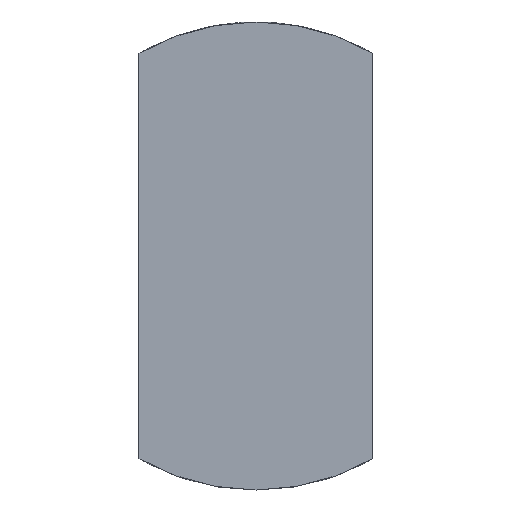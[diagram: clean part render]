
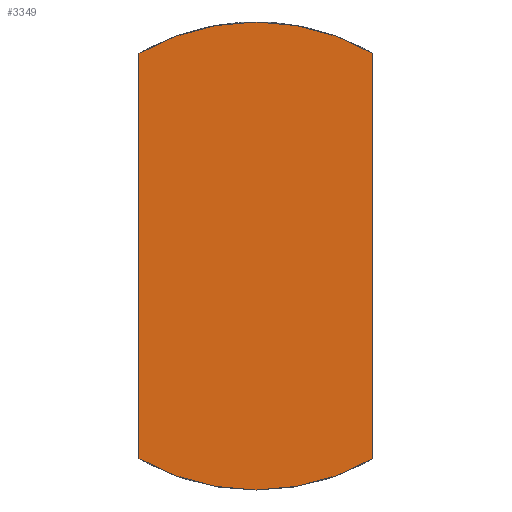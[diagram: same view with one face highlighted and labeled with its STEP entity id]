
A CAD part, front view. The second image highlights one B-rep face of the part: STEP entity #3349.
In plain terms, the highlighted planar face has unit normal (0, -1, 0).
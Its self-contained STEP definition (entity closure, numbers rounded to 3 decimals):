
#106 = DIRECTION ( 'NONE',  ( 0., 0., -1. ) ) ;
#123 = DIRECTION ( 'NONE',  ( 0., -1., 0. ) ) ;
#135 = CARTESIAN_POINT ( 'NONE',  ( 25., 0., -43.301 ) ) ;
#293 = EDGE_CURVE ( 'NONE', #3383, #3141, #2626, .T. ) ;
#320 = DIRECTION ( 'NONE',  ( 0., 0., 1. ) ) ;
#433 = ORIENTED_EDGE ( 'NONE', *, *, #293, .T. ) ;
#448 = FACE_OUTER_BOUND ( 'NONE', #587, .T. ) ;
#525 = DIRECTION ( 'NONE',  ( 0., -1., 0. ) ) ;
#587 = EDGE_LOOP ( 'NONE', ( #2159, #433, #3565, #1105, #1287 ) ) ;
#631 = CARTESIAN_POINT ( 'NONE',  ( -25., 0., 43.301 ) ) ;
#649 = DIRECTION ( 'NONE',  ( 0., -1., 0. ) ) ;
#685 = CARTESIAN_POINT ( 'NONE',  ( -25., 0., -43.301 ) ) ;
#713 = VECTOR ( 'NONE', #320, 1000. ) ;
#864 = CARTESIAN_POINT ( 'NONE',  ( 0., 0., -50. ) ) ;
#931 = CARTESIAN_POINT ( 'NONE',  ( 0., 0., 0. ) ) ;
#987 = DIRECTION ( 'NONE',  ( 0., 0., 1. ) ) ;
#1007 = CARTESIAN_POINT ( 'NONE',  ( 0., 0., 0. ) ) ;
#1012 = CARTESIAN_POINT ( 'NONE',  ( 25., 0., -50. ) ) ;
#1074 = VERTEX_POINT ( 'NONE', #1163 ) ;
#1105 = ORIENTED_EDGE ( 'NONE', *, *, #2216, .T. ) ;
#1163 = CARTESIAN_POINT ( 'NONE',  ( 25., 0., 43.301 ) ) ;
#1275 = VECTOR ( 'NONE', #987, 1000. ) ;
#1287 = ORIENTED_EDGE ( 'NONE', *, *, #1298, .T. ) ;
#1294 = LINE ( 'NONE', #1012, #1275 ) ;
#1298 = EDGE_CURVE ( 'NONE', #1074, #2935, #3676, .T. ) ;
#1303 = CARTESIAN_POINT ( 'NONE',  ( -25., 0., -50. ) ) ;
#1412 = AXIS2_PLACEMENT_3D ( 'NONE', #931, #2183, #2167 ) ;
#2159 = ORIENTED_EDGE ( 'NONE', *, *, #3173, .F. ) ;
#2167 = DIRECTION ( 'NONE',  ( 0., 0., -1. ) ) ;
#2181 = CARTESIAN_POINT ( 'NONE',  ( 0., 0., 0. ) ) ;
#2183 = DIRECTION ( 'NONE',  ( 0., -1., 0. ) ) ;
#2216 = EDGE_CURVE ( 'NONE', #3948, #1074, #1294, .T. ) ;
#2234 = LINE ( 'NONE', #1303, #713 ) ;
#2381 = CARTESIAN_POINT ( 'NONE',  ( 0., 0., 0. ) ) ;
#2626 = CIRCLE ( 'NONE', #3132, 50. ) ;
#2759 = EDGE_CURVE ( 'NONE', #3141, #3948, #3939, .T. ) ;
#2935 = VERTEX_POINT ( 'NONE', #631 ) ;
#3076 = AXIS2_PLACEMENT_3D ( 'NONE', #2181, #649, #3178 ) ;
#3132 = AXIS2_PLACEMENT_3D ( 'NONE', #2381, #525, #3966 ) ;
#3141 = VERTEX_POINT ( 'NONE', #864 ) ;
#3173 = EDGE_CURVE ( 'NONE', #3383, #2935, #2234, .T. ) ;
#3178 = DIRECTION ( 'NONE',  ( 0., 0., -1. ) ) ;
#3349 = ADVANCED_FACE ( 'NONE', ( #448 ), #3507, .T. ) ;
#3383 = VERTEX_POINT ( 'NONE', #685 ) ;
#3507 = PLANE ( 'NONE',  #3951 ) ;
#3565 = ORIENTED_EDGE ( 'NONE', *, *, #2759, .T. ) ;
#3676 = CIRCLE ( 'NONE', #1412, 50. ) ;
#3939 = CIRCLE ( 'NONE', #3076, 50. ) ;
#3948 = VERTEX_POINT ( 'NONE', #135 ) ;
#3951 = AXIS2_PLACEMENT_3D ( 'NONE', #1007, #123, #106 ) ;
#3966 = DIRECTION ( 'NONE',  ( 0., 0., -1. ) ) ;
